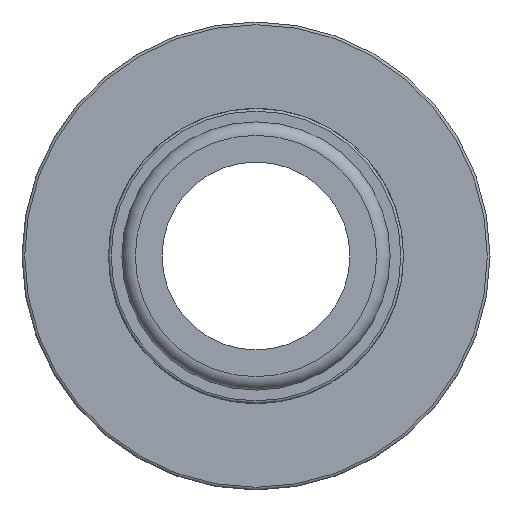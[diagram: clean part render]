
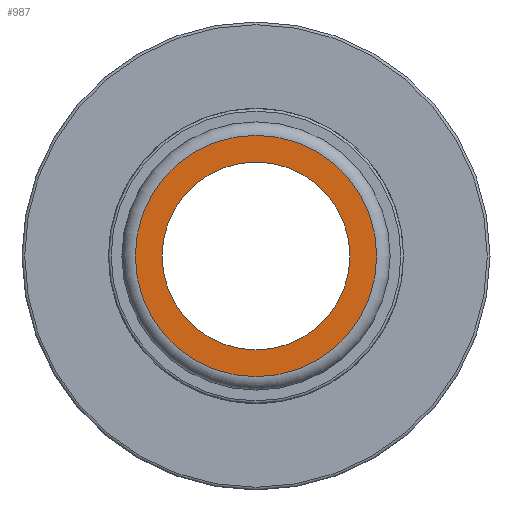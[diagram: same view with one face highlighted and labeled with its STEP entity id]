
A CAD part, left-side view. The second image highlights one B-rep face of the part: STEP entity #987.
In plain terms, the highlighted planar face has unit normal (-1, 0, 0).
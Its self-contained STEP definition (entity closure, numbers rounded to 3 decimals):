
#181=PLANE('',#1101);
#217=FACE_BOUND('',#343,.T.);
#273=FACE_OUTER_BOUND('',#342,.T.);
#342=EDGE_LOOP('',(#913));
#343=EDGE_LOOP('',(#914));
#402=CIRCLE('',#1099,14.962);
#404=CIRCLE('',#1102,11.637);
#500=VERTEX_POINT('',#1872);
#502=VERTEX_POINT('',#1877);
#640=EDGE_CURVE('',#500,#500,#402,.T.);
#642=EDGE_CURVE('',#502,#502,#404,.T.);
#913=ORIENTED_EDGE('',*,*,#640,.F.);
#914=ORIENTED_EDGE('',*,*,#642,.T.);
#987=ADVANCED_FACE('',(#273,#217),#181,.T.);
#1099=AXIS2_PLACEMENT_3D('',#1873,#1380,#1381);
#1101=AXIS2_PLACEMENT_3D('',#1876,#1384,#1385);
#1102=AXIS2_PLACEMENT_3D('',#1878,#1386,#1387);
#1380=DIRECTION('center_axis',(1.,0.,0.));
#1381=DIRECTION('ref_axis',(0.,-1.,0.));
#1384=DIRECTION('center_axis',(-1.,0.,0.));
#1385=DIRECTION('ref_axis',(0.,0.,1.));
#1386=DIRECTION('center_axis',(1.,0.,0.));
#1387=DIRECTION('ref_axis',(0.,0.,-1.));
#1872=CARTESIAN_POINT('',(-100.,14.962,0.));
#1873=CARTESIAN_POINT('Origin',(-100.,0.,0.));
#1876=CARTESIAN_POINT('Origin',(-100.,16.625,0.));
#1877=CARTESIAN_POINT('',(-100.,11.637,0.));
#1878=CARTESIAN_POINT('Origin',(-100.,0.,0.));
